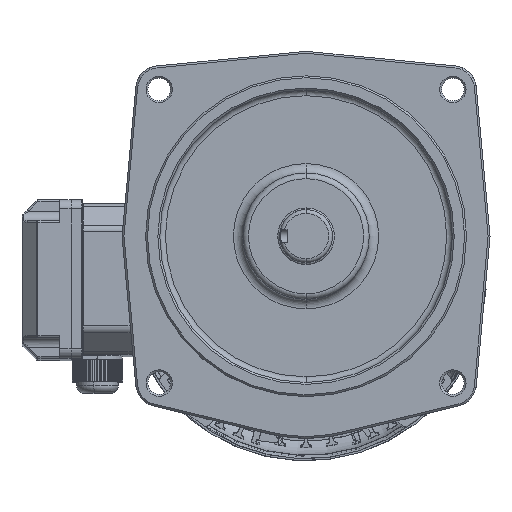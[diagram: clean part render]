
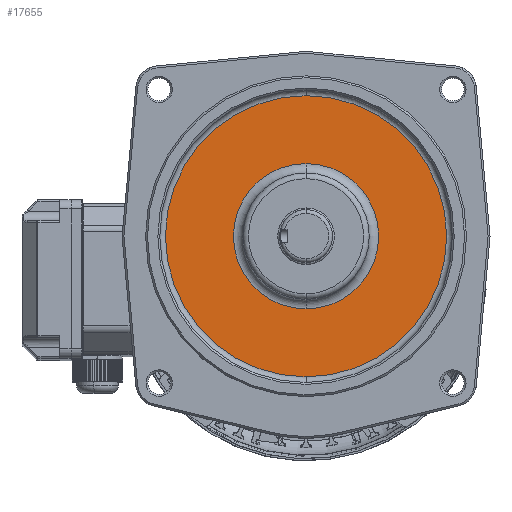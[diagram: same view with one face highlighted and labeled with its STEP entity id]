
A CAD part, top view. The second image highlights one B-rep face of the part: STEP entity #17655.
In plain terms, the highlighted planar face has unit normal (0, 0, 1).
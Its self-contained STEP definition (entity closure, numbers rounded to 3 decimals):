
#719 = CIRCLE ( 'NONE', #10211, 74.5 ) ;
#1668 = CIRCLE ( 'NONE', #43188, 38.5 ) ;
#2275 = DIRECTION ( 'NONE',  ( -1., 0., 0. ) ) ;
#2403 = CARTESIAN_POINT ( 'NONE',  ( 0., 23., 267.5 ) ) ;
#2656 = AXIS2_PLACEMENT_3D ( 'NONE', #24960, #47612, #70299 ) ;
#5063 = ORIENTED_EDGE ( 'NONE', *, *, #11345, .F. ) ;
#10211 = AXIS2_PLACEMENT_3D ( 'NONE', #71444, #20509, #43196 ) ;
#10858 = ORIENTED_EDGE ( 'NONE', *, *, #51184, .F. ) ;
#11345 = EDGE_CURVE ( 'NONE', #51042, #62789, #34670, .T. ) ;
#14249 = CARTESIAN_POINT ( 'NONE',  ( 0., -51.5, 267.5 ) ) ;
#17655 = ADVANCED_FACE ( 'NONE', ( #28128, #50776 ), #73475, .T. ) ;
#20509 = DIRECTION ( 'NONE',  ( 0., 0., -1. ) ) ;
#21026 = CARTESIAN_POINT ( 'NONE',  ( 0., -15.5, 267.5 ) ) ;
#22532 = CARTESIAN_POINT ( 'NONE',  ( 0., 23., 267.5 ) ) ;
#24960 = CARTESIAN_POINT ( 'NONE',  ( 0., 23., 267.5 ) ) ;
#25034 = DIRECTION ( 'NONE',  ( 0., 0., 1. ) ) ;
#27800 = EDGE_LOOP ( 'NONE', ( #10858, #5063 ) ) ;
#28128 = FACE_OUTER_BOUND ( 'NONE', #54222, .T. ) ;
#28231 = CARTESIAN_POINT ( 'NONE',  ( 0., 97.5, 267.5 ) ) ;
#29377 = AXIS2_PLACEMENT_3D ( 'NONE', #30492, #53156, #2275 ) ;
#30492 = CARTESIAN_POINT ( 'NONE',  ( 0., 23., 267.5 ) ) ;
#31475 = EDGE_CURVE ( 'NONE', #58683, #60263, #61378, .T. ) ;
#34670 = CIRCLE ( 'NONE', #2656, 38.5 ) ;
#36660 = AXIS2_PLACEMENT_3D ( 'NONE', #22532, #45209, #67871 ) ;
#37785 = EDGE_CURVE ( 'NONE', #60263, #58683, #719, .T. ) ;
#43188 = AXIS2_PLACEMENT_3D ( 'NONE', #2403, #25034, #47686 ) ;
#43196 = DIRECTION ( 'NONE',  ( -1., 0., 0. ) ) ;
#45209 = DIRECTION ( 'NONE',  ( 0., 0., 1. ) ) ;
#47612 = DIRECTION ( 'NONE',  ( 0., 0., 1. ) ) ;
#47686 = DIRECTION ( 'NONE',  ( -1., 0., 0. ) ) ;
#50776 = FACE_BOUND ( 'NONE', #27800, .T. ) ;
#51042 = VERTEX_POINT ( 'NONE', #21026 ) ;
#51184 = EDGE_CURVE ( 'NONE', #62789, #51042, #1668, .T. ) ;
#53156 = DIRECTION ( 'NONE',  ( 0., 0., -1. ) ) ;
#54199 = CARTESIAN_POINT ( 'NONE',  ( 0., 61.5, 267.5 ) ) ;
#54222 = EDGE_LOOP ( 'NONE', ( #61435, #70901 ) ) ;
#58683 = VERTEX_POINT ( 'NONE', #14249 ) ;
#60263 = VERTEX_POINT ( 'NONE', #28231 ) ;
#61378 = CIRCLE ( 'NONE', #29377, 74.5 ) ;
#61435 = ORIENTED_EDGE ( 'NONE', *, *, #37785, .F. ) ;
#62789 = VERTEX_POINT ( 'NONE', #54199 ) ;
#67871 = DIRECTION ( 'NONE',  ( 1., 0., 0. ) ) ;
#70299 = DIRECTION ( 'NONE',  ( -1., 0., 0. ) ) ;
#70901 = ORIENTED_EDGE ( 'NONE', *, *, #31475, .F. ) ;
#71444 = CARTESIAN_POINT ( 'NONE',  ( 0., 23., 267.5 ) ) ;
#73475 = PLANE ( 'NONE',  #36660 ) ;
